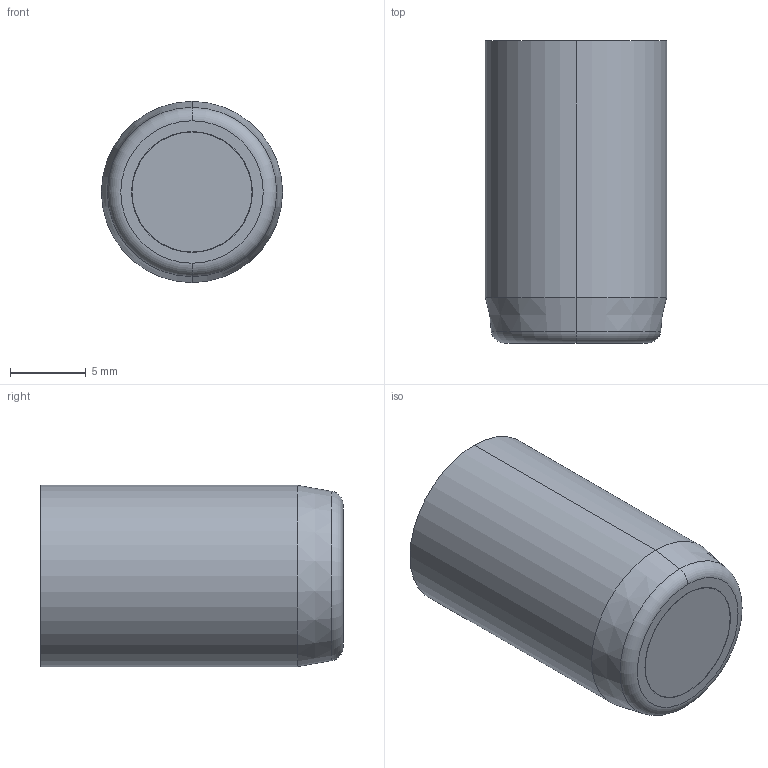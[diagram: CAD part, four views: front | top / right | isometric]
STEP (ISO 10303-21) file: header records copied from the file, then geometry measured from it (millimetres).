
FILE_DESCRIPTION (( 'STEP AP214' ), '1' );
FILE_NAME ('FA126700.STEP', '2013-06-28T08:00:10', ( '' ), ( '' ), 'SwSTEP 2.0', 'SolidWorks 2011', '' );
FILE_SCHEMA (( 'AUTOMOTIVE_DESIGN' ));
Length unit declared in the file: millimetre
Products named in the file (6): IA 6717SF; FA 126700-2 comprimido; FA 126700-1; FA 126700-3; 9FA 126700; FA126700
Assembly tree (5 placements, depth 2):
  FA126700
    IA 6717SF
    FA 126700-1
    9FA 126700
    FA 126700-2 comprimido
    FA 126700-3
Bounding box: 12 x 20 x 12 mm (x, y, z)
Volume: 2017.1 mm3; surface area: 2171.8 mm2
Topology: 5 solids, 5 shells, 114 faces, 257 edges, 158 vertices
Faces by surface type: plane 43, cylinder 31, cone 24, torus 12, sphere 2, bspline 2
Entity records: 4753 total; most frequent: CARTESIAN_POINT 1905, DIRECTION 573, ORIENTED_EDGE 510, EDGE_CURVE 255, AXIS2_PLACEMENT_3D 234, VERTEX_POINT 158, EDGE_LOOP 129, CIRCLE 114
